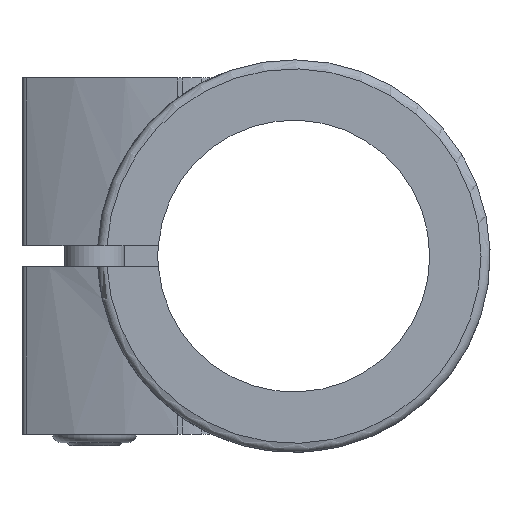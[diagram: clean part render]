
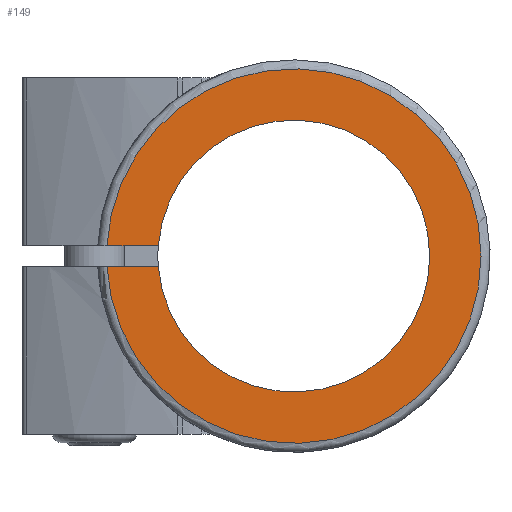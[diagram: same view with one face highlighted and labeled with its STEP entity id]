
A CAD part, left-side view. The second image highlights one B-rep face of the part: STEP entity #149.
In plain terms, the highlighted planar face has unit normal (-1, 0, 0).
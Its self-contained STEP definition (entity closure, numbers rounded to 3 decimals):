
#149 = ADVANCED_FACE( '', ( #404 ), #405, .F. );
#404 = FACE_OUTER_BOUND( '', #758, .T. );
#405 = PLANE( '', #759 );
#758 = EDGE_LOOP( '', ( #1549, #1550, #1551, #1552 ) );
#759 = AXIS2_PLACEMENT_3D( '', #1553, #1554, #1555 );
#1549 = ORIENTED_EDGE( '', *, *, #2522, .F. );
#1550 = ORIENTED_EDGE( '', *, *, #2273, .F. );
#1551 = ORIENTED_EDGE( '', *, *, #2526, .F. );
#1552 = ORIENTED_EDGE( '', *, *, #2287, .F. );
#1553 = CARTESIAN_POINT( '', ( 0., 0., 0. ) );
#1554 = DIRECTION( '', ( 1., 0., 0. ) );
#1555 = DIRECTION( '', ( 0., 0., -1. ) );
#2273 = EDGE_CURVE( '', #2710, #2711, #2712, .T. );
#2287 = EDGE_CURVE( '', #2737, #2739, #2740, .T. );
#2522 = EDGE_CURVE( '', #2711, #2737, #3156, .F. );
#2526 = EDGE_CURVE( '', #2739, #2710, #3160, .T. );
#2710 = VERTEX_POINT( '', #3442 );
#2711 = VERTEX_POINT( '', #3443 );
#2712 = LINE( '', #3444, #3445 );
#2737 = VERTEX_POINT( '', #3489 );
#2739 = VERTEX_POINT( '', #3492 );
#2740 = LINE( '', #3493, #3494 );
#3156 = CIRCLE( '', #4261, 22.5 );
#3160 = CIRCLE( '', #4265, 31. );
#3442 = CARTESIAN_POINT( '', ( 0., 30.951, -1.75 ) );
#3443 = CARTESIAN_POINT( '', ( 0., 22.432, -1.75 ) );
#3444 = CARTESIAN_POINT( '', ( 0., 0., -1.75 ) );
#3445 = VECTOR( '', #4753, 1000. );
#3489 = CARTESIAN_POINT( '', ( 0., 22.432, 1.75 ) );
#3492 = CARTESIAN_POINT( '', ( 0., 30.951, 1.75 ) );
#3493 = CARTESIAN_POINT( '', ( 0., 0., 1.75 ) );
#3494 = VECTOR( '', #4776, 1000. );
#4261 = AXIS2_PLACEMENT_3D( '', #5137, #5138, #5139 );
#4265 = AXIS2_PLACEMENT_3D( '', #5149, #5150, #5151 );
#4753 = DIRECTION( '', ( 0., -1., 0. ) );
#4776 = DIRECTION( '', ( 0., 1., 0. ) );
#5137 = CARTESIAN_POINT( '', ( 0., 0., 0. ) );
#5138 = DIRECTION( '', ( 1., 0., 0. ) );
#5139 = DIRECTION( '', ( 0., 0., -1. ) );
#5149 = CARTESIAN_POINT( '', ( 0., 0., 0. ) );
#5150 = DIRECTION( '', ( 1., 0., 0. ) );
#5151 = DIRECTION( '', ( 0., 0., -1. ) );
